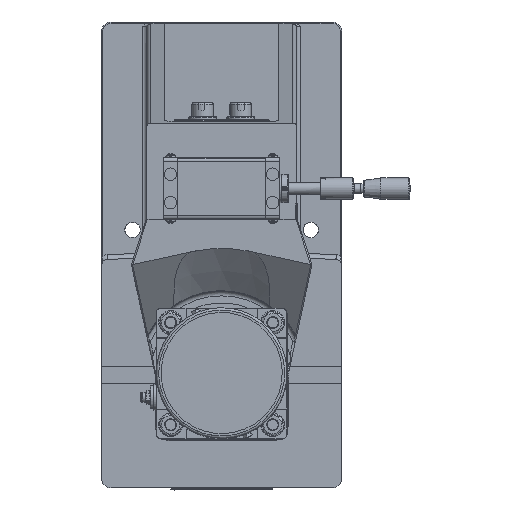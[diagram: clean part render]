
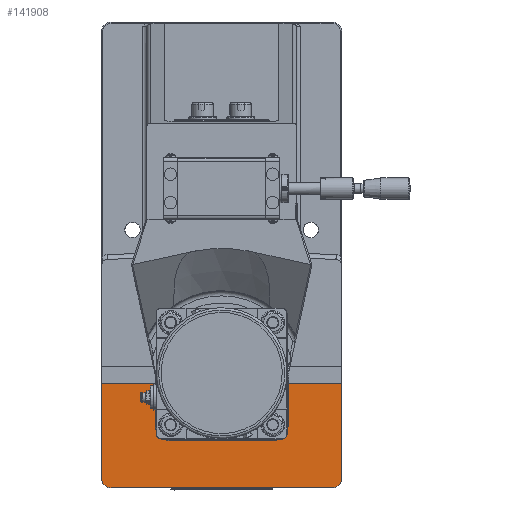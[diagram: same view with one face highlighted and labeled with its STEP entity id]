
A CAD part, top view. The second image highlights one B-rep face of the part: STEP entity #141908.
In plain terms, the highlighted planar face has unit normal (0, 0, 1).
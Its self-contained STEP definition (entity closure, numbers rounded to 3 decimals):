
#9196=LINE('',#207927,#23118);
#9220=LINE('',#208007,#23142);
#9305=LINE('',#208425,#23227);
#9306=LINE('',#208427,#23228);
#23118=VECTOR('',#165892,80.);
#23142=VECTOR('',#165976,80.);
#23227=VECTOR('',#166249,186.);
#23228=VECTOR('',#166252,202.);
#39575=FACE_OUTER_BOUND('',#47318,.T.);
#47318=EDGE_LOOP('',(#104307,#104308,#104309,#104310,#104311,#104312));
#53031=CIRCLE('',#149443,8.);
#53032=CIRCLE('',#149445,8.);
#59463=VERTEX_POINT('',#207924);
#59464=VERTEX_POINT('',#207926);
#59489=VERTEX_POINT('',#208004);
#59490=VERTEX_POINT('',#208006);
#59566=VERTEX_POINT('',#208420);
#59567=VERTEX_POINT('',#208424);
#75602=EDGE_CURVE('',#59463,#59464,#9196,.T.);
#75643=EDGE_CURVE('',#59489,#59490,#9220,.T.);
#75776=EDGE_CURVE('',#59566,#59489,#53031,.T.);
#75778=EDGE_CURVE('',#59567,#59566,#9305,.T.);
#75779=EDGE_CURVE('',#59464,#59567,#53032,.T.);
#75780=EDGE_CURVE('',#59463,#59490,#9306,.T.);
#104307=ORIENTED_EDGE('',*,*,#75776,.F.);
#104308=ORIENTED_EDGE('',*,*,#75778,.F.);
#104309=ORIENTED_EDGE('',*,*,#75779,.F.);
#104310=ORIENTED_EDGE('',*,*,#75602,.F.);
#104311=ORIENTED_EDGE('',*,*,#75780,.T.);
#104312=ORIENTED_EDGE('',*,*,#75643,.F.);
#128773=PLANE('',#149444);
#141908=ADVANCED_FACE('',(#39575),#128773,.T.);
#149443=AXIS2_PLACEMENT_3D('',#208421,#166244,#166245);
#149444=AXIS2_PLACEMENT_3D('',#208423,#166247,#166248);
#149445=AXIS2_PLACEMENT_3D('',#208426,#166250,#166251);
#165892=DIRECTION('',(0.,-1.,0.));
#165976=DIRECTION('',(0.,1.,0.));
#166244=DIRECTION('center_axis',(0.,0.,
-1.));
#166245=DIRECTION('ref_axis',(-0.707,-0.707,0.));
#166247=DIRECTION('center_axis',(0.,0.,
1.));
#166248=DIRECTION('ref_axis',(1.,0.,0.));
#166249=DIRECTION('',(-1.,0.,0.));
#166250=DIRECTION('center_axis',(0.,0.,
-1.));
#166251=DIRECTION('ref_axis',(0.707,-0.707,0.));
#166252=DIRECTION('',(-1.,0.,0.));
#207924=CARTESIAN_POINT('',(101.,-104.5,52.));
#207926=CARTESIAN_POINT('',(101.,-184.5,52.));
#207927=CARTESIAN_POINT('',(101.,-192.5,52.));
#208004=CARTESIAN_POINT('',(-101.,-184.5,52.));
#208006=CARTESIAN_POINT('',(-101.,-104.5,52.));
#208007=CARTESIAN_POINT('',(-101.,-0.5,52.));
#208420=CARTESIAN_POINT('',(-93.,-192.5,52.));
#208421=CARTESIAN_POINT('Origin',(-93.,-184.5,52.));
#208423=CARTESIAN_POINT('Origin',(0.,-95.968,
52.));
#208424=CARTESIAN_POINT('',(93.,-192.5,52.));
#208425=CARTESIAN_POINT('',(-101.,-192.5,52.));
#208426=CARTESIAN_POINT('Origin',(93.,-184.5,52.));
#208427=CARTESIAN_POINT('',(50.5,-104.5,52.));
